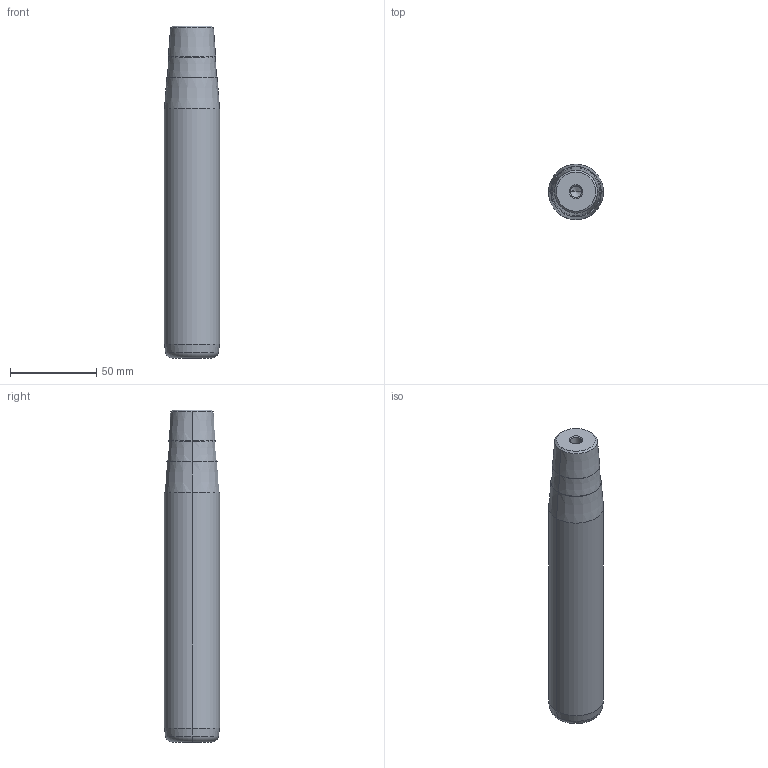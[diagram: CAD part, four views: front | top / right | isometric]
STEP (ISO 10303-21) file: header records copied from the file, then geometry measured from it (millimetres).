
FILE_DESCRIPTION(('CATIA V5 STEP Exchange'),'2;1');
FILE_NAME('C:\Users\Utente\Desktop\IO LAVORO\3D X SITO CF\X SITO\722\722-32x160x193.stp','2021-01-08T16:11:33+00:00',('none'),('none'),'CATIA Version 5 Release 20 GA (IN-10)','CATIA V5 STEP AP203','none');
FILE_SCHEMA(('CONFIG_CONTROL_DESIGN'));
Length unit declared in the file: millimetre
Products named in the file (1): 722-32x160x193
Bounding box: 32 x 32 x 193 mm (x, y, z)
Volume: 144308.8 mm3; surface area: 20977.2 mm2
Topology: 1 solids, 1 shells, 32 faces, 66 edges, 34 vertices
Faces by surface type: cone 22, cylinder 6, plane 2, torus 2
Entity records: 854 total; most frequent: CARTESIAN_POINT 175, DIRECTION 124, ORIENTED_EDGE 124, AXIS2_PLACEMENT_3D 65, EDGE_CURVE 62, EDGE_LOOP 34, VERTEX_POINT 34, ADVANCED_FACE 32
